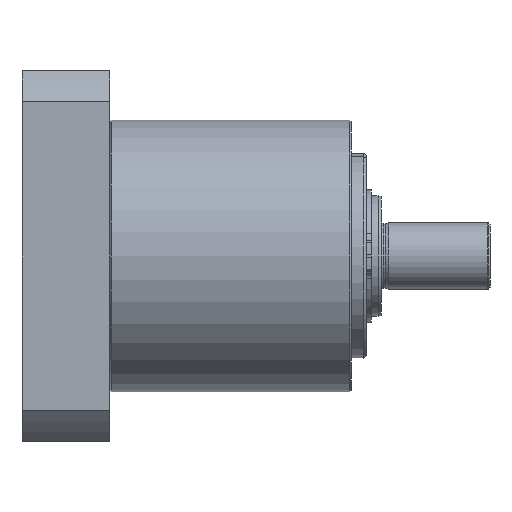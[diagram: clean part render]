
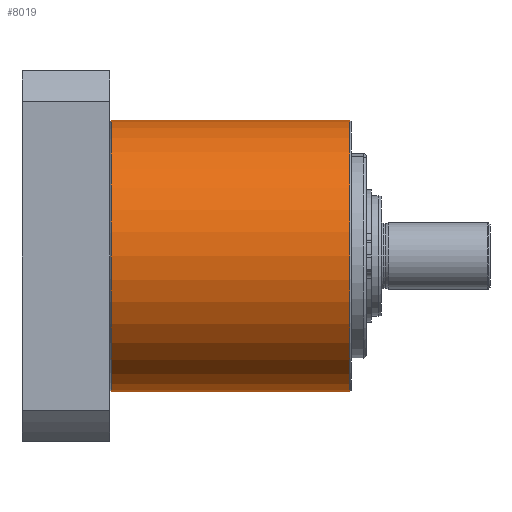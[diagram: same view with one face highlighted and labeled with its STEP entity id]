
A CAD part, front view. The second image highlights one B-rep face of the part: STEP entity #8019.
In plain terms, the highlighted cylindrical face has radius 45 mm (diameter 90 mm), a partial arc.
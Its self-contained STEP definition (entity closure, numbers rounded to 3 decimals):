
#608 = VECTOR ( 'NONE', #10494, 1000. ) ;
#733 = VECTOR ( 'NONE', #7241, 1000. ) ;
#761 = EDGE_LOOP ( 'NONE', ( #8901, #7410, #9833, #1717 ) ) ;
#1087 = EDGE_CURVE ( 'NONE', #11483, #4792, #9515, .T. ) ;
#1238 = CARTESIAN_POINT ( 'NONE',  ( 79.5, 0., -45. ) ) ;
#1461 = FACE_OUTER_BOUND ( 'NONE', #761, .T. ) ;
#1717 = ORIENTED_EDGE ( 'NONE', *, *, #7172, .T. ) ;
#1934 = LINE ( 'NONE', #3269, #733 ) ;
#2101 = CARTESIAN_POINT ( 'NONE',  ( 52.368, 0., -45. ) ) ;
#3155 = CARTESIAN_POINT ( 'NONE',  ( 79.5, 0., 45. ) ) ;
#3269 = CARTESIAN_POINT ( 'NONE',  ( 52.368, 0., 45. ) ) ;
#3389 = DIRECTION ( 'NONE',  ( -1., 0., 0. ) ) ;
#3755 = AXIS2_PLACEMENT_3D ( 'NONE', #8308, #3389, #12560 ) ;
#3965 = DIRECTION ( 'NONE',  ( 0., 0., -1. ) ) ;
#4264 = EDGE_CURVE ( 'NONE', #9697, #12921, #1934, .T. ) ;
#4792 = VERTEX_POINT ( 'NONE', #1238 ) ;
#4856 = CIRCLE ( 'NONE', #3755, 45. ) ;
#6189 = CARTESIAN_POINT ( 'NONE',  ( 0.5, 0., 0. ) ) ;
#6780 = DIRECTION ( 'NONE',  ( 1., 0., 0. ) ) ;
#7172 = EDGE_CURVE ( 'NONE', #4792, #12921, #4856, .T. ) ;
#7241 = DIRECTION ( 'NONE',  ( 1., 0., 0. ) ) ;
#7410 = ORIENTED_EDGE ( 'NONE', *, *, #12422, .T. ) ;
#7883 = CARTESIAN_POINT ( 'NONE',  ( 0.5, 0., -45. ) ) ;
#8019 = ADVANCED_FACE ( 'NONE', ( #1461 ), #12144, .T. ) ;
#8142 = CARTESIAN_POINT ( 'NONE',  ( 0.5, 0., 45. ) ) ;
#8308 = CARTESIAN_POINT ( 'NONE',  ( 79.5, 0., 0. ) ) ;
#8731 = CARTESIAN_POINT ( 'NONE',  ( 52.368, 0., 0. ) ) ;
#8901 = ORIENTED_EDGE ( 'NONE', *, *, #4264, .F. ) ;
#9351 = DIRECTION ( 'NONE',  ( 1., 0., 0. ) ) ;
#9503 = AXIS2_PLACEMENT_3D ( 'NONE', #6189, #9351, #3965 ) ;
#9515 = LINE ( 'NONE', #2101, #608 ) ;
#9697 = VERTEX_POINT ( 'NONE', #8142 ) ;
#9833 = ORIENTED_EDGE ( 'NONE', *, *, #1087, .T. ) ;
#9935 = DIRECTION ( 'NONE',  ( 0., 0., -1. ) ) ;
#10494 = DIRECTION ( 'NONE',  ( 1., 0., 0. ) ) ;
#11483 = VERTEX_POINT ( 'NONE', #7883 ) ;
#12144 = CYLINDRICAL_SURFACE ( 'NONE', #13562, 45. ) ;
#12373 = CIRCLE ( 'NONE', #9503, 45. ) ;
#12422 = EDGE_CURVE ( 'NONE', #9697, #11483, #12373, .T. ) ;
#12560 = DIRECTION ( 'NONE',  ( 0., 0., 1. ) ) ;
#12921 = VERTEX_POINT ( 'NONE', #3155 ) ;
#13562 = AXIS2_PLACEMENT_3D ( 'NONE', #8731, #6780, #9935 ) ;
